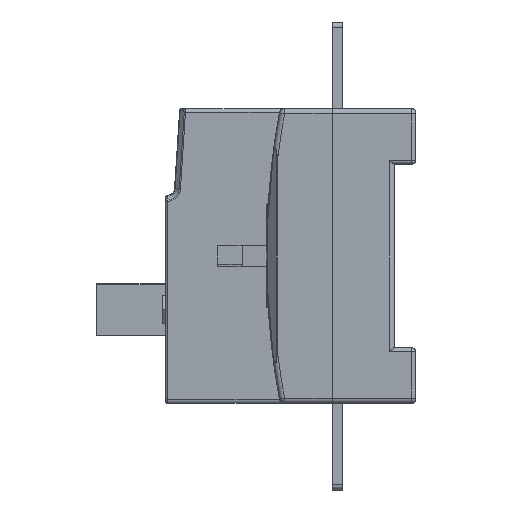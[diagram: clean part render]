
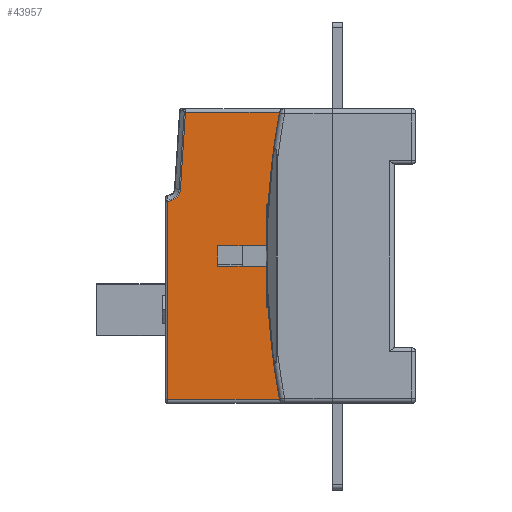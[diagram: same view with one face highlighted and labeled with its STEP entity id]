
A CAD part, left-side view. The second image highlights one B-rep face of the part: STEP entity #43957.
In plain terms, the highlighted planar face has unit normal (-1, 0, 0) as drawn and (1, 0, 0) by its records, which use the part's own axes.
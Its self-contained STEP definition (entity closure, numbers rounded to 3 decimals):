
#41370=DIRECTION('',(0.,1.,0.));
#41371=VECTOR('',#41370,32.5);
#41372=CARTESIAN_POINT('',(30.,0.5,-41.5));
#41373=LINE('',#41372,#41371);
#41378=CARTESIAN_POINT('',(30.,0.5,19.5));
#41379=DIRECTION('',(1.,0.,0.));
#41380=DIRECTION('',(0.,0.,-1.));
#41381=AXIS2_PLACEMENT_3D('',#41378,#41379,#41380);
#41383=DIRECTION('',(0.,0.065,0.998));
#41384=VECTOR('',#41383,22.288);
#41385=CARTESIAN_POINT('',(30.,4.199,19.259));
#41386=LINE('',#41385,#41384);
#41387=DIRECTION('',(0.,1.,0.));
#41388=VECTOR('',#41387,18.);
#41389=CARTESIAN_POINT('',(30.,15.,-3.));
#41390=LINE('',#41389,#41388);
#41391=DIRECTION('',(0.,0.,-1.));
#41392=VECTOR('',#41391,57.293);
#41393=CARTESIAN_POINT('',(30.,0.5,15.793));
#41394=LINE('',#41393,#41392);
#41896=DIRECTION('',(0.,0.,1.));
#41897=VECTOR('',#41896,6.);
#41898=CARTESIAN_POINT('',(30.,15.,-3.));
#41899=LINE('',#41898,#41897);
#41908=DIRECTION('',(0.,1.,0.));
#41909=VECTOR('',#41908,18.);
#41910=CARTESIAN_POINT('',(30.,15.,3.));
#41911=LINE('',#41910,#41909);
#41916=DIRECTION('',(0.,0.,1.));
#41917=VECTOR('',#41916,38.5);
#41918=CARTESIAN_POINT('',(30.,33.,3.));
#41919=LINE('',#41918,#41917);
#41952=DIRECTION('',(0.,0.,1.));
#41953=VECTOR('',#41952,38.5);
#41954=CARTESIAN_POINT('',(30.,33.,-41.5));
#41955=LINE('',#41954,#41953);
#41969=DIRECTION('',(0.,-1.,0.));
#41970=VECTOR('',#41969,27.354);
#41971=CARTESIAN_POINT('',(30.,33.,41.5));
#41972=LINE('',#41971,#41970);
#43113=CARTESIAN_POINT('',(30.,0.5,-41.5));
#43114=VERTEX_POINT('',#43113);
#43115=CARTESIAN_POINT('',(30.,33.,-41.5));
#43116=VERTEX_POINT('',#43115);
#43117=CARTESIAN_POINT('',(30.,0.5,15.793));
#43118=VERTEX_POINT('',#43117);
#43119=CARTESIAN_POINT('',(30.,4.199,19.26));
#43120=VERTEX_POINT('',#43119);
#43121=CARTESIAN_POINT('',(30.,5.646,41.5));
#43122=VERTEX_POINT('',#43121);
#43123=CARTESIAN_POINT('',(30.,33.,41.5));
#43124=VERTEX_POINT('',#43123);
#43125=CARTESIAN_POINT('',(30.,33.,3.));
#43126=VERTEX_POINT('',#43125);
#43127=CARTESIAN_POINT('',(30.,15.,3.));
#43128=VERTEX_POINT('',#43127);
#43129=CARTESIAN_POINT('',(30.,15.,-3.));
#43130=VERTEX_POINT('',#43129);
#43131=CARTESIAN_POINT('',(30.,33.,-3.));
#43132=VERTEX_POINT('',#43131);
#43931=CARTESIAN_POINT('',(30.,0.,42.5));
#43932=DIRECTION('',(1.,0.,0.));
#43933=DIRECTION('',(0.,0.,-1.));
#43934=AXIS2_PLACEMENT_3D('',#43931,#43932,#43933);
#43935=PLANE('',#43934);
#43937=ORIENTED_EDGE('',*,*,#43936,.F.);
#43939=ORIENTED_EDGE('',*,*,#43938,.T.);
#43941=ORIENTED_EDGE('',*,*,#43940,.T.);
#43943=ORIENTED_EDGE('',*,*,#43942,.F.);
#43945=ORIENTED_EDGE('',*,*,#43944,.F.);
#43947=ORIENTED_EDGE('',*,*,#43946,.F.);
#43949=ORIENTED_EDGE('',*,*,#43948,.F.);
#43951=ORIENTED_EDGE('',*,*,#43950,.T.);
#43953=ORIENTED_EDGE('',*,*,#43952,.F.);
#43954=ORIENTED_EDGE('',*,*,#43923,.F.);
#43955=EDGE_LOOP('',(#43937,#43939,#43941,#43943,#43945,#43947,#43949,#43951,
#43953,#43954));
#43956=FACE_OUTER_BOUND('',#43955,.F.);
#41382=CIRCLE('',#41381,3.707);
#43923=EDGE_CURVE('',#43114,#43116,#41373,.T.);
#43936=EDGE_CURVE('',#43118,#43114,#41394,.T.);
#43938=EDGE_CURVE('',#43118,#43120,#41382,.T.);
#43940=EDGE_CURVE('',#43120,#43122,#41386,.T.);
#43942=EDGE_CURVE('',#43124,#43122,#41972,.T.);
#43944=EDGE_CURVE('',#43126,#43124,#41919,.T.);
#43946=EDGE_CURVE('',#43128,#43126,#41911,.T.);
#43948=EDGE_CURVE('',#43130,#43128,#41899,.T.);
#43950=EDGE_CURVE('',#43130,#43132,#41390,.T.);
#43952=EDGE_CURVE('',#43116,#43132,#41955,.T.);
#43957=ADVANCED_FACE('',(#43956),#43935,.T.);
